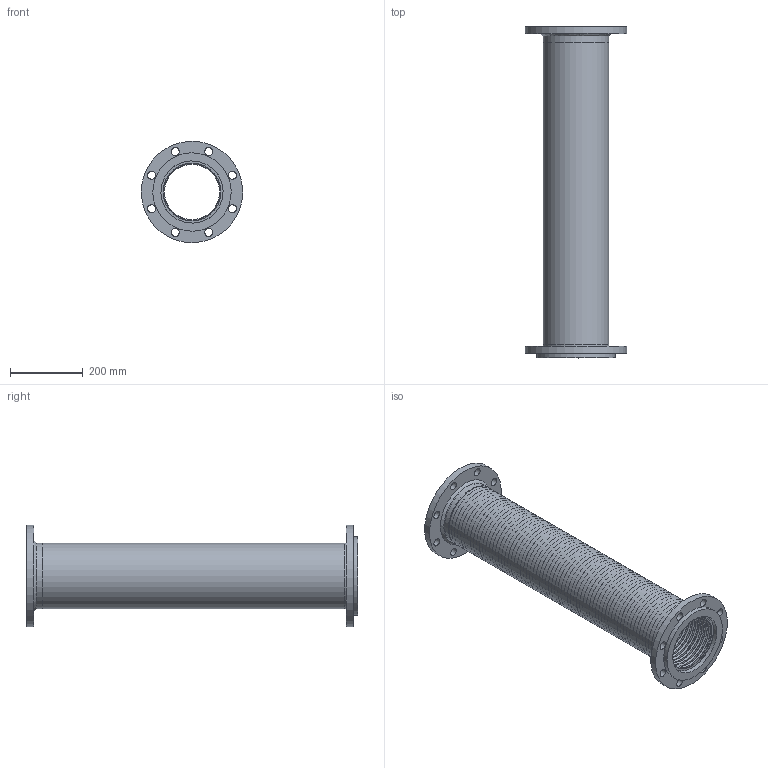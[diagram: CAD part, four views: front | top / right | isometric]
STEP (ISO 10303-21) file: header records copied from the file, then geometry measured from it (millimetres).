
FILE_DESCRIPTION((''),'2;1');
FILE_NAME('C:\REVIT SHARED FILES\STP\FFL6x36ASA150.stp','2013-06-14T19:11:34',('rramoutar'),(''),'Autodesk Inventor 2012','Autodesk Inventor 2012','');
FILE_SCHEMA(('AUTOMOTIVE_DESIGN { 1 0 10303 214 1 1 1 1 }'));
Length unit declared in the file: inch
Products named in the file (8): FFL 6x36 Per A-30311-3; FFL 6x36 Per A-30311-3_Welds; A-30302-2 FIXED FLANGE 6 inch 150 #; A-30303-1 FLOATING FLANGE 6 inch 150 #; A-30304-2 FFL WELDED WASHER 6 inch 150 #; A-29781-7 6.0 inch braid collar; FFL 6x36 Stainless Braid; FFL 6x36 Stainless Hose
Assembly tree (8 placements, depth 2):
  FFL 6x36 Per A-30311-3
    FFL 6x36 Per A-30311-3_Welds
    A-30302-2 FIXED FLANGE 6 inch 150 #
    A-30303-1 FLOATING FLANGE 6 inch 150 #
    A-30304-2 FFL WELDED WASHER 6 inch 150 #
    A-29781-7 6.0 inch braid collar  x2
    FFL 6x36 Stainless Braid
    FFL 6x36 Stainless Hose
Bounding box: 279.13 x 914.4 x 279.13 mm (x, y, z)
Volume: 2307223.4 mm3; surface area: 3798335.8 mm2
Topology: 9 solids, 9 shells, 631 faces, 994 edges, 669 vertices
Faces by surface type: plane 306, torus 291, cylinder 31, bspline 2, cone 1
Full cylindrical faces by diameter (mm): 22.225 x16, 171.45 x2, 179.07 x3, 180.086 x1, 181.451 x4, 188.913 x1, 215.9 x2, 279.4 x2
Entity records: 13535 total; most frequent: DIRECTION 2560, CARTESIAN_POINT 2381, ORIENTED_EDGE 1298, EDGE_LOOP 1284, AXIS2_PLACEMENT_3D 1280, FACE_BOUND 657, EDGE_CURVE 649, VERTEX_POINT 647
